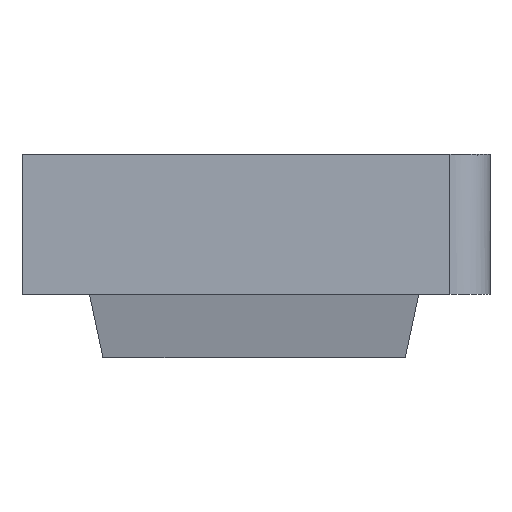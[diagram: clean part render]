
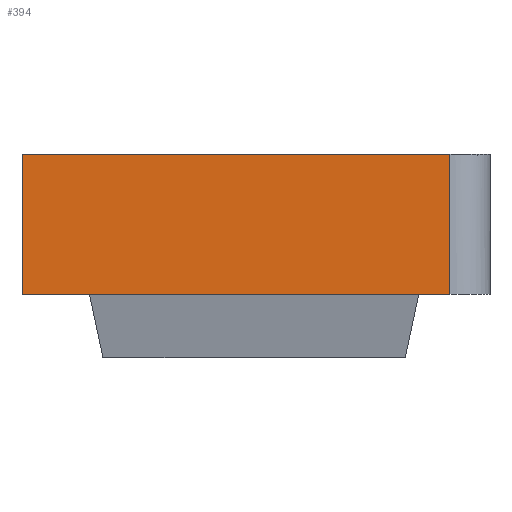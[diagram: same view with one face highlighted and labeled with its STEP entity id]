
A CAD part, left-side view. The second image highlights one B-rep face of the part: STEP entity #394.
In plain terms, the highlighted planar face has unit normal (-1, 0, 0).
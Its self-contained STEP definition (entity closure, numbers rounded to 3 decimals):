
#50 = VERTEX_POINT('',#51);
#51 = CARTESIAN_POINT('',(-172.,117.,
    70.));
#57 = EDGE_CURVE('',#50,#58,#60,.T.);
#58 = VERTEX_POINT('',#59);
#59 = CARTESIAN_POINT('',(-172.,-97.,70.));
#60 = LINE('',#61,#62);
#61 = CARTESIAN_POINT('',(-172.,117.,
    70.));
#62 = VECTOR('',#63,1.);
#63 = DIRECTION('',(0.,-1.,0.));
#191 = VERTEX_POINT('',#192);
#192 = CARTESIAN_POINT('',(-172.,-97.,0.));
#199 = EDGE_CURVE('',#191,#200,#202,.T.);
#200 = VERTEX_POINT('',#201);
#201 = CARTESIAN_POINT('',(-172.,117.,
    0.));
#202 = LINE('',#203,#204);
#203 = CARTESIAN_POINT('',(-172.,-97.,0.));
#204 = VECTOR('',#205,1.);
#205 = DIRECTION('',(0.,1.,0.));
#384 = EDGE_CURVE('',#58,#191,#385,.T.);
#385 = LINE('',#386,#387);
#386 = CARTESIAN_POINT('',(-172.,-97.,70.));
#387 = VECTOR('',#388,1.);
#388 = DIRECTION('',(0.,0.,-1.));
#394 = ADVANCED_FACE('',(#395),#406,.T.);
#395 = FACE_BOUND('',#396,.T.);
#396 = EDGE_LOOP('',(#397,#398,#404,#405));
#397 = ORIENTED_EDGE('',*,*,#57,.F.);
#398 = ORIENTED_EDGE('',*,*,#399,.T.);
#399 = EDGE_CURVE('',#50,#200,#400,.T.);
#400 = LINE('',#401,#402);
#401 = CARTESIAN_POINT('',(-172.,117.,
    70.));
#402 = VECTOR('',#403,1.);
#403 = DIRECTION('',(0.,0.,-1.));
#404 = ORIENTED_EDGE('',*,*,#199,.F.);
#405 = ORIENTED_EDGE('',*,*,#384,.F.);
#406 = PLANE('',#407);
#407 = AXIS2_PLACEMENT_3D('',#408,#409,#410);
#408 = CARTESIAN_POINT('',(-172.,117.,
    70.));
#409 = DIRECTION('',(-1.,0.,0.));
#410 = DIRECTION('',(-0.,0.,-1.));
